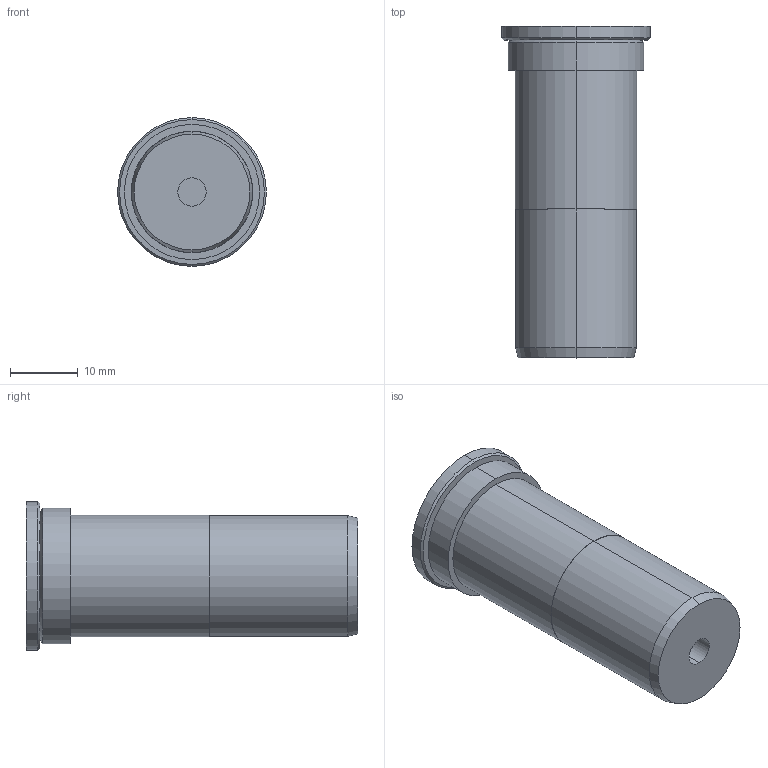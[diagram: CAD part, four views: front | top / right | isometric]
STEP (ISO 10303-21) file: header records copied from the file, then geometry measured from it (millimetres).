
FILE_DESCRIPTION (( 'STEP AP203' ), '1' );
FILE_NAME ('QC02214 C.STEP', '2016-06-01T11:32:46', ( '' ), ( '' ), 'SwSTEP 2.0', 'SolidWorks 2016', '' );
FILE_SCHEMA (( 'CONFIG_CONTROL_DESIGN' ));
Length unit declared in the file: millimetre
Products named in the file (1): QC02214 C
Bounding box: 22 x 49.05 x 22 mm (x, y, z)
Volume: 5208.6 mm3; surface area: 7531.7 mm2
Topology: 7 solids, 7 shells, 98 faces, 241 edges, 154 vertices
Faces by surface type: cylinder 40, cone 29, plane 15, sphere 10, torus 4
Entity records: 3290 total; most frequent: CARTESIAN_POINT 1011, DIRECTION 481, ORIENTED_EDGE 432, EDGE_CURVE 216, AXIS2_PLACEMENT_3D 209, VERTEX_POINT 139, EDGE_LOOP 117, CIRCLE 110
